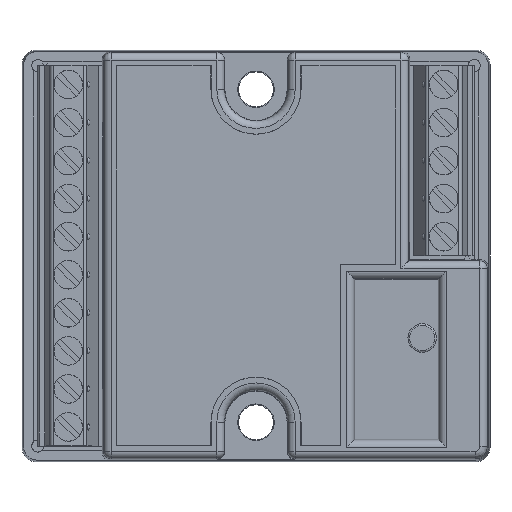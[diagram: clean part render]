
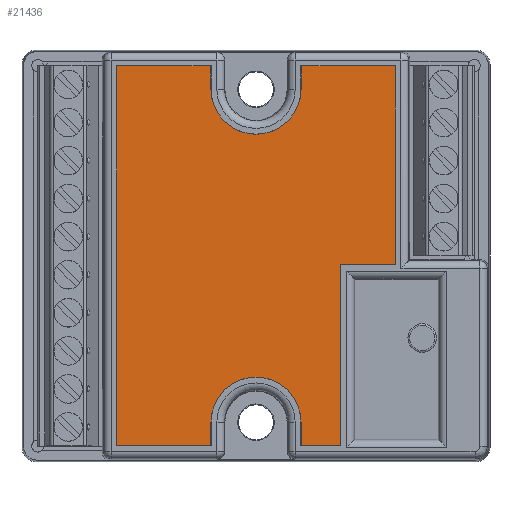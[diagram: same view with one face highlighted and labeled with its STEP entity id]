
A CAD part, top view. The second image highlights one B-rep face of the part: STEP entity #21436.
In plain terms, the highlighted planar face has unit normal (0, 0, 1).
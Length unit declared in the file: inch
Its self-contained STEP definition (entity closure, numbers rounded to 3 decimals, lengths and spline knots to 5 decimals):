
#2625=LINE('',#33000,#4777);
#2626=LINE('',#33002,#4778);
#2627=LINE('',#33006,#4779);
#2628=LINE('',#33008,#4780);
#2629=LINE('',#33010,#4781);
#2630=LINE('',#33012,#4782);
#2631=LINE('',#33014,#4783);
#2632=LINE('',#33018,#4784);
#2633=LINE('',#33020,#4785);
#2634=LINE('',#33022,#4786);
#2635=LINE('',#33024,#4787);
#2636=LINE('',#33025,#4788);
#4777=VECTOR('',#26991,39.37008);
#4778=VECTOR('',#26992,39.37008);
#4779=VECTOR('',#26995,39.37008);
#4780=VECTOR('',#26996,39.37008);
#4781=VECTOR('',#26997,39.37008);
#4782=VECTOR('',#26998,39.37008);
#4783=VECTOR('',#26999,39.37008);
#4784=VECTOR('',#27002,39.37008);
#4785=VECTOR('',#27003,39.37008);
#4786=VECTOR('',#27004,39.37008);
#4787=VECTOR('',#27005,39.37008);
#4788=VECTOR('',#27006,39.37008);
#6218=PLANE('',#22995);
#7441=FACE_OUTER_BOUND('',#8731,.T.);
#8731=EDGE_LOOP('',(#17702,#17703,#17704,#17705,#17706,#17707,#17708,#17709,
#17710,#17711,#17712,#17713,#17714,#17715));
#9754=CIRCLE('',#22996,0.23656);
#9755=CIRCLE('',#22997,0.23656);
#11121=VERTEX_POINT('',#32998);
#11122=VERTEX_POINT('',#32999);
#11123=VERTEX_POINT('',#33001);
#11124=VERTEX_POINT('',#33003);
#11125=VERTEX_POINT('',#33005);
#11126=VERTEX_POINT('',#33007);
#11127=VERTEX_POINT('',#33009);
#11128=VERTEX_POINT('',#33011);
#11129=VERTEX_POINT('',#33013);
#11130=VERTEX_POINT('',#33015);
#11131=VERTEX_POINT('',#33017);
#11132=VERTEX_POINT('',#33019);
#11133=VERTEX_POINT('',#33021);
#11134=VERTEX_POINT('',#33023);
#13555=EDGE_CURVE('',#11121,#11122,#2625,.T.);
#13556=EDGE_CURVE('',#11122,#11123,#2626,.T.);
#13557=EDGE_CURVE('',#11123,#11124,#9754,.T.);
#13558=EDGE_CURVE('',#11124,#11125,#2627,.T.);
#13559=EDGE_CURVE('',#11125,#11126,#2628,.T.);
#13560=EDGE_CURVE('',#11126,#11127,#2629,.T.);
#13561=EDGE_CURVE('',#11127,#11128,#2630,.T.);
#13562=EDGE_CURVE('',#11128,#11129,#2631,.T.);
#13563=EDGE_CURVE('',#11129,#11130,#9755,.T.);
#13564=EDGE_CURVE('',#11130,#11131,#2632,.T.);
#13565=EDGE_CURVE('',#11131,#11132,#2633,.T.);
#13566=EDGE_CURVE('',#11132,#11133,#2634,.T.);
#13567=EDGE_CURVE('',#11133,#11134,#2635,.T.);
#13568=EDGE_CURVE('',#11134,#11121,#2636,.T.);
#17702=ORIENTED_EDGE('',*,*,#13555,.T.);
#17703=ORIENTED_EDGE('',*,*,#13556,.T.);
#17704=ORIENTED_EDGE('',*,*,#13557,.T.);
#17705=ORIENTED_EDGE('',*,*,#13558,.T.);
#17706=ORIENTED_EDGE('',*,*,#13559,.T.);
#17707=ORIENTED_EDGE('',*,*,#13560,.T.);
#17708=ORIENTED_EDGE('',*,*,#13561,.T.);
#17709=ORIENTED_EDGE('',*,*,#13562,.T.);
#17710=ORIENTED_EDGE('',*,*,#13563,.T.);
#17711=ORIENTED_EDGE('',*,*,#13564,.T.);
#17712=ORIENTED_EDGE('',*,*,#13565,.T.);
#17713=ORIENTED_EDGE('',*,*,#13566,.T.);
#17714=ORIENTED_EDGE('',*,*,#13567,.T.);
#17715=ORIENTED_EDGE('',*,*,#13568,.T.);
#21436=ADVANCED_FACE('',(#7441),#6218,.T.);
#22995=AXIS2_PLACEMENT_3D('',#32997,#26989,#26990);
#22996=AXIS2_PLACEMENT_3D('',#33004,#26993,#26994);
#22997=AXIS2_PLACEMENT_3D('',#33016,#27000,#27001);
#26989=DIRECTION('center_axis',(0.,0.,
1.));
#26990=DIRECTION('ref_axis',(-1.,0.,0.));
#26991=DIRECTION('',(-1.,0.,0.));
#26992=DIRECTION('',(0.,-1.,0.));
#26993=DIRECTION('center_axis',(0.,0.,
-1.));
#26994=DIRECTION('ref_axis',(-1.,0.,0.));
#26995=DIRECTION('',(0.,1.,0.));
#26996=DIRECTION('',(-1.,0.,0.));
#26997=DIRECTION('',(0.,-1.,0.));
#26998=DIRECTION('',(1.,0.,0.));
#26999=DIRECTION('',(0.,1.,0.));
#27000=DIRECTION('center_axis',(0.,0.,
-1.));
#27001=DIRECTION('ref_axis',(-1.,0.,0.));
#27002=DIRECTION('',(0.,-1.,0.));
#27003=DIRECTION('',(1.,0.,0.));
#27004=DIRECTION('',(0.,1.,0.));
#27005=DIRECTION('',(1.,0.,0.));
#27006=DIRECTION('',(0.,1.,0.));
#32997=CARTESIAN_POINT('Origin',(1.28316,1.4572,1.64077));
#32998=CARTESIAN_POINT('',(2.04892,2.42057,1.64077));
#32999=CARTESIAN_POINT('',(1.55399,2.42057,1.64077));
#33000=CARTESIAN_POINT('',(1.55365,2.42057,1.64077));
#33001=CARTESIAN_POINT('',(1.55399,2.29794,1.64077));
#33002=CARTESIAN_POINT('',(1.55399,2.29794,1.64077));
#33003=CARTESIAN_POINT('',(1.08086,2.29794,1.64077));
#33004=CARTESIAN_POINT('Origin',(1.31743,2.29794,1.64077));
#33005=CARTESIAN_POINT('',(1.08086,2.42057,1.64077));
#33006=CARTESIAN_POINT('',(1.08086,2.42091,1.64077));
#33007=CARTESIAN_POINT('',(0.58594,2.42057,1.64077));
#33008=CARTESIAN_POINT('',(0.5856,2.42057,1.64077));
#33009=CARTESIAN_POINT('',(0.58594,0.42531,1.64077));
#33010=CARTESIAN_POINT('',(0.58594,0.42496,1.64077));
#33011=CARTESIAN_POINT('',(1.08086,0.42531,1.64077));
#33012=CARTESIAN_POINT('',(1.08121,0.42531,1.64077));
#33013=CARTESIAN_POINT('',(1.08086,0.54794,1.64077));
#33014=CARTESIAN_POINT('',(1.08086,0.54794,1.64077));
#33015=CARTESIAN_POINT('',(1.55399,0.54794,1.64077));
#33016=CARTESIAN_POINT('Origin',(1.31743,0.54794,1.64077));
#33017=CARTESIAN_POINT('',(1.55399,0.42531,1.64077));
#33018=CARTESIAN_POINT('',(1.55399,0.42496,1.64077));
#33019=CARTESIAN_POINT('',(1.76224,0.42531,1.64077));
#33020=CARTESIAN_POINT('',(1.76258,0.42531,1.64077));
#33021=CARTESIAN_POINT('',(1.76224,1.3756,1.64077));
#33022=CARTESIAN_POINT('',(1.76224,1.37526,1.64077));
#33023=CARTESIAN_POINT('',(2.04892,1.3756,1.64077));
#33024=CARTESIAN_POINT('',(2.04926,1.3756,1.64077));
#33025=CARTESIAN_POINT('',(2.04892,2.42091,1.64077));
